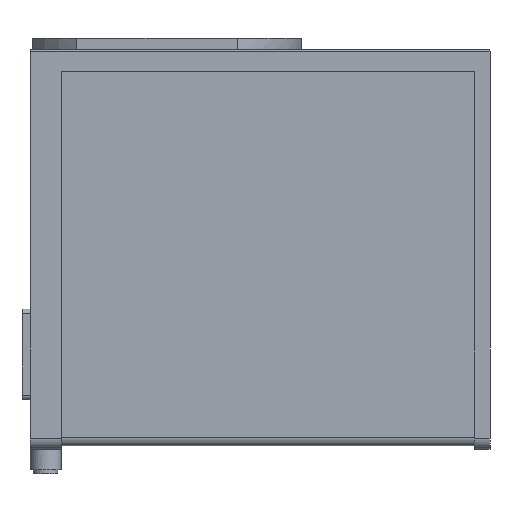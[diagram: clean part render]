
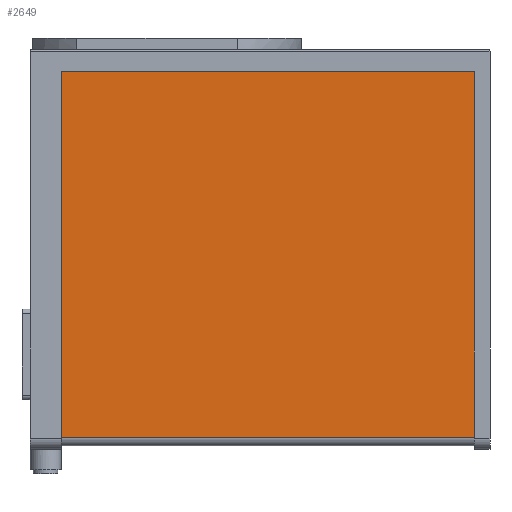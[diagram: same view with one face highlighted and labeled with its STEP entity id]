
A CAD part, front view. The second image highlights one B-rep face of the part: STEP entity #2649.
In plain terms, the highlighted planar face has unit normal (0, -1, 0).
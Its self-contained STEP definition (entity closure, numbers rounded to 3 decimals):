
#2649 = ADVANCED_FACE( '', ( #6159 ), #6160, .F. );
#6159 = FACE_OUTER_BOUND( '', #10566, .T. );
#6160 = PLANE( '', #10567 );
#10566 = EDGE_LOOP( '', ( #18805, #18806, #18807, #18808, #18809, #18810 ) );
#10567 = AXIS2_PLACEMENT_3D( '', #18811, #18812, #18813 );
#18805 = ORIENTED_EDGE( '', *, *, #25173, .T. );
#18806 = ORIENTED_EDGE( '', *, *, #25212, .T. );
#18807 = ORIENTED_EDGE( '', *, *, #23967, .T. );
#18808 = ORIENTED_EDGE( '', *, *, #25105, .T. );
#18809 = ORIENTED_EDGE( '', *, *, #24736, .T. );
#18810 = ORIENTED_EDGE( '', *, *, #23650, .T. );
#18811 = CARTESIAN_POINT( '', ( 115.74, -78.659, -123.122 ) );
#18812 = DIRECTION( '', ( 0., 1., 0. ) );
#18813 = DIRECTION( '', ( 1., 0., 0. ) );
#23650 = EDGE_CURVE( '', #26624, #27900, #27901, .T. );
#23967 = EDGE_CURVE( '', #28407, #28408, #28409, .T. );
#24736 = EDGE_CURVE( '', #29598, #26624, #29599, .T. );
#25105 = EDGE_CURVE( '', #28408, #29598, #30114, .T. );
#25173 = EDGE_CURVE( '', #27900, #30202, #30204, .T. );
#25212 = EDGE_CURVE( '', #30202, #28407, #30260, .T. );
#26624 = VERTEX_POINT( '', #32125 );
#27900 = VERTEX_POINT( '', #34689 );
#27901 = LINE( '', #34690, #34691 );
#28407 = VERTEX_POINT( '', #35583 );
#28408 = VERTEX_POINT( '', #35584 );
#28409 = LINE( '', #35585, #35586 );
#29598 = VERTEX_POINT( '', #37729 );
#29599 = LINE( '', #37730, #37731 );
#30114 = LINE( '', #38643, #38644 );
#30202 = VERTEX_POINT( '', #38849 );
#30204 = LINE( '', #38851, #38852 );
#30260 = LINE( '', #38940, #38941 );
#32125 = CARTESIAN_POINT( '', ( -73.66, -78.659, 43.73 ) );
#34689 = CARTESIAN_POINT( '', ( -73.66, -78.659, -120.77 ) );
#34690 = CARTESIAN_POINT( '', ( -73.66, -78.659, -121.77 ) );
#34691 = VECTOR( '', #42462, 1000. );
#35583 = CARTESIAN_POINT( '', ( 115.74, -78.659, 43.73 ) );
#35584 = CARTESIAN_POINT( '', ( 115.74, -78.659, 45.23 ) );
#35585 = CARTESIAN_POINT( '', ( 115.74, -78.659, -123.122 ) );
#35586 = VECTOR( '', #42843, 1000. );
#37729 = CARTESIAN_POINT( '', ( -73.66, -78.659, 45.23 ) );
#37730 = CARTESIAN_POINT( '', ( -73.66, -78.659, -123.122 ) );
#37731 = VECTOR( '', #43826, 1000. );
#38643 = CARTESIAN_POINT( '', ( 115.74, -78.659, 45.23 ) );
#38644 = VECTOR( '', #44252, 1000. );
#38849 = CARTESIAN_POINT( '', ( 115.74, -78.659, -120.77 ) );
#38851 = CARTESIAN_POINT( '', ( -73.66, -78.659, -120.77 ) );
#38852 = VECTOR( '', #44337, 1000. );
#38940 = CARTESIAN_POINT( '', ( 115.74, -78.659, -123.122 ) );
#38941 = VECTOR( '', #44394, 1000. );
#42462 = DIRECTION( '', ( 0., 0., -1. ) );
#42843 = DIRECTION( '', ( 0., 0., 1. ) );
#43826 = DIRECTION( '', ( 0., 0., -1. ) );
#44252 = DIRECTION( '', ( -1., 0., 0. ) );
#44337 = DIRECTION( '', ( 1., 0., 0. ) );
#44394 = DIRECTION( '', ( 0., 0., 1. ) );
